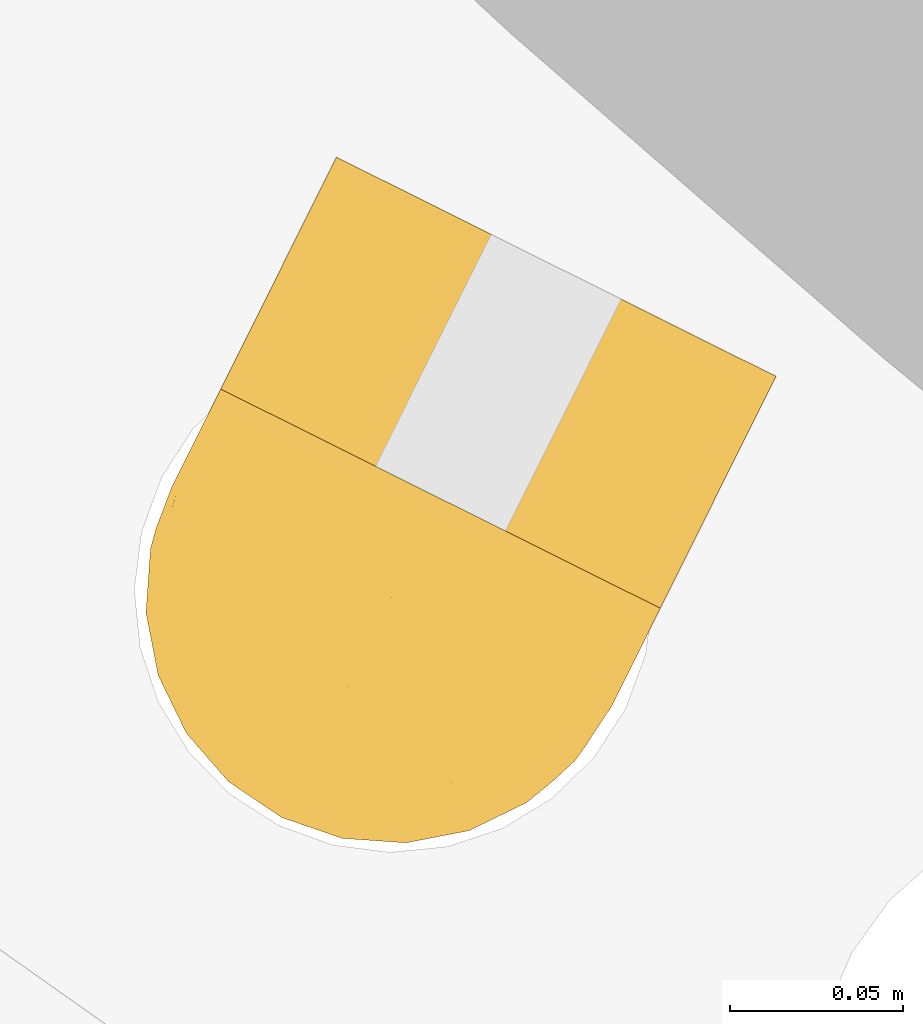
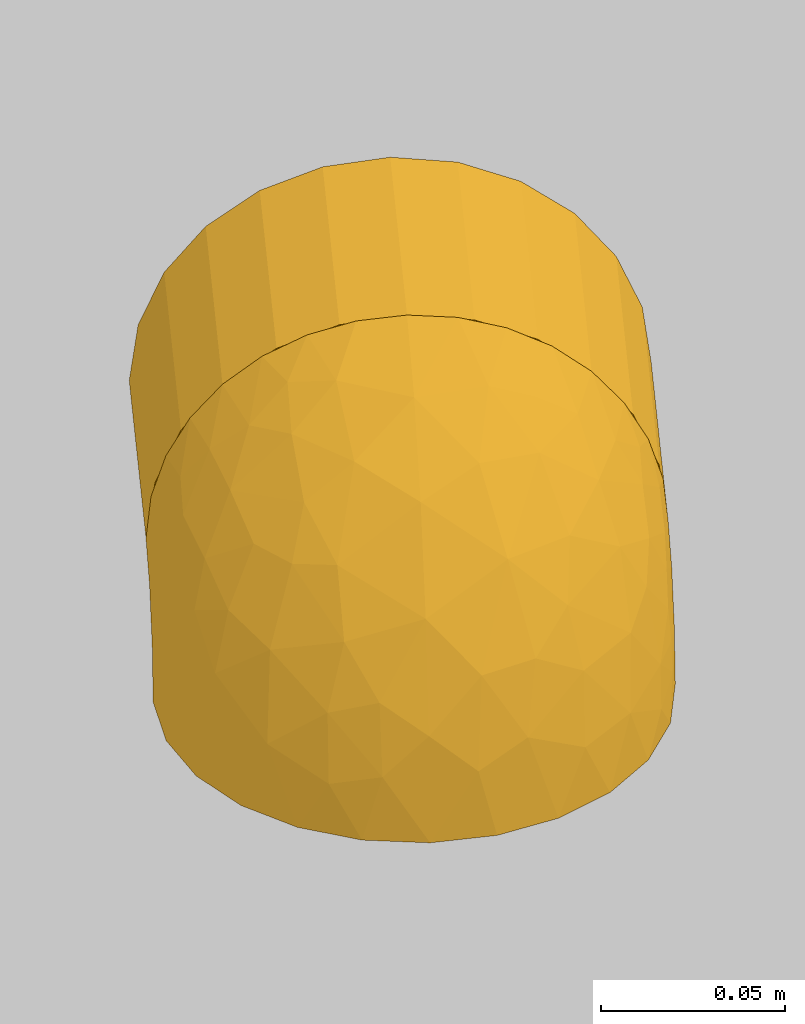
# One storey, part 8 of 34: 2 coverings.
"""IFC2X3 building model written with IfcOpenShell, lengths in metres."""

from ifc_helpers import new_model, entity, si_unit, converted_unit, derived_unit, direction, frame, origin, place, context, subcontext, project, spatial, faceted_brep, element, save


model = new_model("IFC2X3")

# Units and contexts
model_context = context("Model", 3, precision=1e-05, world=origin(), true_north=direction((0.894925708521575, 0.446215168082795)))
context_of_model = context(None, 3, precision=1e-05, world=origin(), true_north=direction((0.894925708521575, 0.446215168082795)))
body_context = subcontext(model_context, "Body", "Model", "MODEL_VIEW")
ifc_project = project(units=[si_unit("LENGTHUNIT", "METRE"), si_unit("AREAUNIT", "SQUARE_METRE"), si_unit("VOLUMEUNIT", "CUBIC_METRE"), converted_unit("PLANEANGLEUNIT", "DEGREE", entity("IfcRatioMeasure", 0.0174532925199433), si_unit("PLANEANGLEUNIT", "RADIAN"), dimensions=[0, 0, 0, 0, 0, 0, 0]), si_unit("MASSUNIT", "GRAM", prefix="KILO"), si_unit("TIMEUNIT", "SECOND"), si_unit("FREQUENCYUNIT", "HERTZ"), si_unit("THERMODYNAMICTEMPERATUREUNIT", "DEGREE_CELSIUS"), derived_unit("THERMALTRANSMITTANCEUNIT", [(si_unit("MASSUNIT", "GRAM", prefix="KILO"), 1), (si_unit("THERMODYNAMICTEMPERATUREUNIT", "KELVIN"), -1), (si_unit("TIMEUNIT", "SECOND"), -3)]), derived_unit("VOLUMETRICFLOWRATEUNIT", [(si_unit("LENGTHUNIT", "METRE"), 3), (si_unit("TIMEUNIT", "SECOND"), -1)]), si_unit("ELECTRICCURRENTUNIT", "AMPERE"), si_unit("ELECTRICVOLTAGEUNIT", "VOLT"), si_unit("POWERUNIT", "WATT"), si_unit("FORCEUNIT", "NEWTON", prefix="KILO"), si_unit("ILLUMINANCEUNIT", "LUX"), si_unit("LUMINOUSFLUXUNIT", "LUMEN"), si_unit("LUMINOUSINTENSITYUNIT", "CANDELA"), si_unit("PRESSUREUNIT", "PASCAL")], contexts=[model_context, context_of_model])

# Site, building, storey
site_placement = place(None, frame((218.228324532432, 584.720189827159, 0.0), z_axis=(0.0, 0.0, 1.0), x_axis=(0.446215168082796, 0.894925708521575, 0.0)))
site = spatial("IfcSite", under=ifc_project, at=site_placement, Name="Default", CompositionType="ELEMENT")
building_placement = place(site_placement, origin())
building = spatial("IfcBuilding", under=site, at=building_placement, CompositionType="ELEMENT")
storey_placement = place(building_placement, frame((0.0, 0.0, 8.61)))
storey = spatial("IfcBuildingStorey", under=building, at=storey_placement, Name="2 - Piano Secondo", CompositionType="ELEMENT", Elevation=8.61)

# Coverings
covering_1_placement = place(storey_placement, frame((66.9993807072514, -1.84621461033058, 1.12732272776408)))
element("IfcCovering", 1, at=covering_1_placement, inside=storey, Name="Isolamento tubazione:Default", ObjectType="Isolamento tubazione:Default", PredefinedType="INSULATION", context=body_context, shape_type="Brep", body=[
    faceted_brep([(0.00159527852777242, 0.0111187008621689, 0.108218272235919), (0.00159531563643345, 0.0224149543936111, 0.122939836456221), (0.0015953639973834, 0.0371365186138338, 0.134236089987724), (0.00159542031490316, 0.0542801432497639, 0.141337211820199), (0.00159548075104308, 0.0726775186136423, 0.143759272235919), (0.00159554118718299, 0.0910748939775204, 0.141337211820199), (0.00159559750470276, 0.108218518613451, 0.134236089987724), (0.0015956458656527, 0.122940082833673, 0.122939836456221), (0.00159568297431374, 0.134236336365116, 0.108218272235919), (0.00159570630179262, 0.141337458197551, 0.091074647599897), (0.00159571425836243, 0.143759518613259, 0.0726772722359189), (0.00159570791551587, 0.141828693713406, 0.0562223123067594), (0.00159568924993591, 0.136146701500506, 0.0406723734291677), (0.0015952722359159, 0.00920339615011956, 0.0406821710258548), (0.00159525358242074, 0.00352508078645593, 0.0562276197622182), (0.00159524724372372, 0.00159551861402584, 0.0726772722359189), (0.00159525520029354, 0.00401757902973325, 0.091074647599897), (0.0765952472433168, 0.0015952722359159, 0.0726772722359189), (0.0765952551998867, 0.00401733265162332, 0.0542798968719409), (0.0765952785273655, 0.0111184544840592, 0.037136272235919), (0.0765953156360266, 0.0224147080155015, 0.022414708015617), (0.0765953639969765, 0.0371362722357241, 0.0111184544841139), (0.0765954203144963, 0.0542798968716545, 0.00401733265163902), (0.0765954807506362, 0.0726772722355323, 0.00159527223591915), (0.0765955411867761, 0.0910746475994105, 0.00401733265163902), (0.0765955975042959, 0.108218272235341, 0.0111184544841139), (0.0765956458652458, 0.122939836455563, 0.022414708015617), (0.0765956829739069, 0.134236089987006, 0.037136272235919), (0.0765957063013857, 0.141337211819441, 0.0542798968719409), (0.0765957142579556, 0.143759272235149, 0.0726772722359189), (0.0765957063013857, 0.141337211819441, 0.091074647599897), (0.0765956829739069, 0.134236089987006, 0.108218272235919), (0.0765956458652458, 0.122939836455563, 0.122939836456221), (0.0765955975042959, 0.108218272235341, 0.134236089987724), (0.0765955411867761, 0.0910746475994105, 0.141337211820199), (0.0765954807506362, 0.0726772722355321, 0.143759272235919), (0.0765954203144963, 0.0542798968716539, 0.141337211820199), (0.0765953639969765, 0.0371362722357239, 0.134236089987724), (0.0765953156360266, 0.0224147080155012, 0.122939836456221), (0.0765952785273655, 0.0111184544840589, 0.108218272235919), (0.0765952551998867, 0.00401733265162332, 0.091074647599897), (0.0126659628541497, 0.129221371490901, 0.029602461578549), (0.0222828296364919, 0.120387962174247, 0.0199861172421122), (0.0359182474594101, 0.0982435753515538, 0.00635215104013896), (0.0394766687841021, 0.0856798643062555, 0.00279460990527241), (0.0406769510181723, 0.0726773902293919, 0.00159527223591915), (0.0301217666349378, 0.109944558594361, 0.0121478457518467), (0.0394782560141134, 0.059673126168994, 0.00279494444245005), (0.0359207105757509, 0.0471078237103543, 0.00635346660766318), (0.022284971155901, 0.0249615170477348, 0.0199910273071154), (0.0301243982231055, 0.0354056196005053, 0.0121507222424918), (0.0126670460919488, 0.0161280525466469, 0.0296097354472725)], [[[0, 1, 2, 3, 4, 5, 6, 7, 8, 9, 10, 11, 12, 13, 14, 15, 16]], [[17, 18, 19, 20, 21, 22, 23, 24, 25, 26, 27, 28, 29, 30, 31, 32, 33, 34, 35, 36, 37, 38, 39, 40]], [[11, 29, 28]], [[27, 26, 41]], [[12, 28, 27]], [[10, 29, 11]], [[12, 11, 28]], [[41, 12, 27]], [[26, 42, 41]], [[43, 25, 24]], [[24, 23, 44]], [[45, 44, 23]], [[42, 26, 46]], [[44, 43, 24]], [[46, 25, 43]], [[46, 26, 25]], [[47, 45, 23]], [[47, 23, 22]], [[48, 22, 21]], [[48, 47, 22]], [[20, 49, 50]], [[48, 21, 50]], [[50, 21, 20]], [[51, 20, 19]], [[13, 19, 18]], [[14, 18, 17]], [[51, 19, 13]], [[13, 18, 14]], [[17, 15, 14]], [[20, 51, 49]], [[16, 15, 17, 40]], [[0, 16, 40, 39]], [[39, 38, 1, 0]], [[3, 2, 37, 36]], [[4, 3, 36, 35]], [[38, 37, 2, 1]], [[5, 4, 35, 34]], [[6, 5, 34, 33]], [[33, 32, 7, 6]], [[9, 8, 31, 30]], [[10, 9, 30, 29]], [[32, 31, 8, 7]], [[13, 12, 41, 42, 46, 43, 44, 45, 47, 48, 50, 49, 51]]]),
])
covering_2_placement = place(storey_placement, frame((66.8962809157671, -1.84623236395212, 1.16640450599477)))
element("IfcCovering", 2, at=covering_2_placement, inside=storey, Name="Isolamento tubazione:Default", ObjectType="Isolamento tubazione:Default", PredefinedType="INSULATION", context=body_context, shape_type="Brep", body=[
    faceted_brep([(0.104695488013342, 0.138380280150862, 0.0608111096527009), (0.10469546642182, 0.131807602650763, 0.0731042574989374), (0.104695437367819, 0.122963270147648, 0.0838780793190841), (0.104695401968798, 0.112187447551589, 0.0927189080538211), (0.104695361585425, 0.0998943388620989, 0.0992873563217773), (0.104695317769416, 0.0865562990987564, 0.103331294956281), (0.104695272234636, 0.0726950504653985, 0.104695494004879), (0.104695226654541, 0.0588200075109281, 0.103328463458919), (0.104695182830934, 0.045479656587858, 0.0992805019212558), (0.104695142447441, 0.0331865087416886, 0.0927078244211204), (0.104695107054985, 0.0224126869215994, 0.0838634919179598), (0.104695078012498, 0.0135718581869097, 0.0730876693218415), (0.104695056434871, 0.00700340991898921, 0.0607945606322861), (0.104695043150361, 0.00295947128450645, 0.0474565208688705), (0.104695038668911, 0.0015952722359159, 0.0335952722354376), (0.104695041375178, 0.00241908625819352, 0.0228034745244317), (0.104695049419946, 0.00486799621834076, 0.0122724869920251), (0.10469506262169, 0.0088867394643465, 0.00223180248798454), (0.104695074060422, 0.0123689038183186, 0.00223181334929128), (0.104695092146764, 0.0178745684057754, 0.00223183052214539), (0.104695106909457, 0.02236848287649, 0.00223184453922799), (0.10469512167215, 0.0268623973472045, 0.00223185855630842), (0.104695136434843, 0.0313563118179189, 0.00223187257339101), (0.104695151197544, 0.035850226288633, 0.00223188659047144), (0.104695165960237, 0.0403441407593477, 0.00223190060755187), (0.10469518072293, 0.0448380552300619, 0.0022319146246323), (0.104695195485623, 0.0493319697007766, 0.00223192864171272), (0.104695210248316, 0.053825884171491, 0.00223194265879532), (0.104695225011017, 0.0583197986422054, 0.00223195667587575), (0.10469523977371, 0.0628137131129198, 0.00223197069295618), (0.104695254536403, 0.0673076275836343, 0.00223198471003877), (0.104695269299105, 0.071801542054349, 0.0022319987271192), (0.104695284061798, 0.0762954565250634, 0.00223201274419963), (0.104695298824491, 0.0807893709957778, 0.00223202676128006), (0.104695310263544, 0.0842715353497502, 0.0022320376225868), (0.104695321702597, 0.0877536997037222, 0.00223204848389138), (0.104695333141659, 0.0912358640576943, 0.00223205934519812), (0.104695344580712, 0.0947180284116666, 0.00223207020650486), (0.104695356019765, 0.098200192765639, 0.00223208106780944), (0.10469536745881, 0.101682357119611, 0.00223209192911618), (0.104695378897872, 0.105164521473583, 0.00223210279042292), (0.104695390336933, 0.108646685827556, 0.0022321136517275), (0.104695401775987, 0.112128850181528, 0.00223212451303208), (0.104695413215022, 0.1156110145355, 0.00223213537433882), (0.104695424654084, 0.119093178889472, 0.00223214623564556), (0.104695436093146, 0.122575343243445, 0.0022321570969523), (0.104695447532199, 0.126057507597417, 0.00223216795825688), (0.104695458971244, 0.129539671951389, 0.00223217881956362), (0.104695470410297, 0.133021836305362, 0.0022321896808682), (0.104695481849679, 0.136504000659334, 0.00223220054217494), (0.104695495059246, 0.140525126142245, 0.0122806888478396), (0.104695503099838, 0.142972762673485, 0.0228119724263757), (0.104695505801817, 0.143795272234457, 0.0335957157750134), (0.104695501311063, 0.142428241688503, 0.0474707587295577), (0.104058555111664, 0.00888674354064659, 0.0015952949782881), (0.0887949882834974, 0.00344225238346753, 0.00159527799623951), (0.0726950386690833, 0.0015954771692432, 0.00159527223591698), (0.0542930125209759, 0.00401821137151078, 0.0015952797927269), (0.0371450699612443, 0.0111211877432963, 0.00159530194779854), (0.0224198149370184, 0.0224203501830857, 0.00159533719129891), (0.0111207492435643, 0.0371456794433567, 0.00159538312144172), (0.004017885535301, 0.0542936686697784, 0.00159543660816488), (0.0015952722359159, 0.0726957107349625, 0.00159549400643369), (0.00401800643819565, 0.0910977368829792, 0.00159555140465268), (0.0111209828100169, 0.108245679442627, 0.00159560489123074), (0.022420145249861, 0.122970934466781, 0.00159565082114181), (0.0371454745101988, 0.13427000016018, 0.00159568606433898), (0.0542934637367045, 0.141372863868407, 0.00159570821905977), (0.0726955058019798, 0.143795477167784, 0.00159571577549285), (0.0887954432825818, 0.141948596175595, 0.00159571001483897), (0.104058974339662, 0.136504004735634, 0.00159569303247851), (0.104058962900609, 0.133021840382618, 0.00159568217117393), (0.104058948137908, 0.128527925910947, 0.00159566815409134), (0.104058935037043, 0.124539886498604, 0.00159565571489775), (0.104058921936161, 0.12055184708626, 0.00159564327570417), (0.104058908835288, 0.116563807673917, 0.00159563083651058), (0.104058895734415, 0.112575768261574, 0.00159561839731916), (0.104058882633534, 0.10858772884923, 0.00159560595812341), (0.104058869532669, 0.104599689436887, 0.00159559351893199), (0.104058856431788, 0.100611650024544, 0.0015955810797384), (0.104058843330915, 0.0966236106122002, 0.00159556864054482), (0.104058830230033, 0.0926355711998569, 0.00159555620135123), (0.104058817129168, 0.0886475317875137, 0.00159554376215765), (0.104058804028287, 0.0846594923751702, 0.00159553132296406), (0.104058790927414, 0.0806714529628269, 0.00159551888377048), (0.104058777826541, 0.0766834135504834, 0.00159550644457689), (0.104058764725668, 0.0726953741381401, 0.0015954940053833), (0.104058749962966, 0.0682014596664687, 0.00159547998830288), (0.104058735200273, 0.0637075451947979, 0.00159546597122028), (0.10405872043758, 0.059213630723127, 0.00159545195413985), (0.104058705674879, 0.0547197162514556, 0.00159543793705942), (0.104058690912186, 0.0502258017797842, 0.001595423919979), (0.104058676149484, 0.0457318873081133, 0.0015954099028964), (0.104058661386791, 0.0412379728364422, 0.00159539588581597), (0.10405864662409, 0.0367440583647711, 0.00159538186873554), (0.104058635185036, 0.0332618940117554, 0.0015953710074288), (0.104058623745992, 0.0297797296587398, 0.00159536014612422), (0.104058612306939, 0.0262975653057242, 0.00159534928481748), (0.104058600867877, 0.0228154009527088, 0.00159533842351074), (0.104058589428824, 0.0193332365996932, 0.00159532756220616), (0.104058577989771, 0.0158510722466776, 0.00159531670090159), (0.104058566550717, 0.0123689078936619, 0.00159530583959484), (0.104255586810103, 0.118228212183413, 0.0020557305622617), (0.104218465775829, 0.122545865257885, 0.00201712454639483), (0.104232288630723, 0.0397510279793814, 0.00203229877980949), (0.104223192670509, 0.0434849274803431, 0.0020224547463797), (0.104244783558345, 0.0586471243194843, 0.00204516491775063), (0.104248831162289, 0.0785424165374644, 0.00204918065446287), (0.104242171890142, 0.0745558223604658, 0.00204253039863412), (0.104245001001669, 0.0141099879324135, 0.00204539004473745), (0.104214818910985, 0.0179704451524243, 0.00201303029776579), (0.104245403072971, 0.136504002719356, 0.00204577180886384), (0.104245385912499, 0.131280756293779, 0.00204575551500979), (0.104244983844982, 0.0088867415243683, 0.00204537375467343), (0.104224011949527, 0.102605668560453, 0.00202332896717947), (0.104194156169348, 0.0213230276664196, 0.00198800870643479), (0.10425784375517, 0.0246154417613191, 0.00205787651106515), (0.104229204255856, 0.0350029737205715, 0.00202900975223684), (0.104266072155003, 0.092976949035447, 0.00206552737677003), (0.104242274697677, 0.0825277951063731, 0.00204263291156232), (0.104232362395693, 0.0622206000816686, 0.00203236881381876), (0.104223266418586, 0.0659544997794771, 0.00202252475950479), (0.104225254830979, 0.0706145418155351, 0.00202470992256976), (0.104248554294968, 0.047463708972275, 0.00204891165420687), (0.104265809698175, 0.0513997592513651, 0.00206528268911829), (0.104187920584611, 0.031713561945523, 0.00197990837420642), (0.104277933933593, 0.0968571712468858, 0.00207609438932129), (0.104214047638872, 0.1144952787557, 0.00201207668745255), (0.104270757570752, 0.127284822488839, 0.00206977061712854), (0.104591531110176, 0.00888673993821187, 0.00218891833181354), (0.104487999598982, 0.00888674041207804, 0.00214603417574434), (0.104366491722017, 0.00888674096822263, 0.00209570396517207), (0.104366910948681, 0.13650400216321, 0.00209610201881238), (0.104488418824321, 0.136504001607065, 0.00214643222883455), (0.10459195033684, 0.136504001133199, 0.00218931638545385), (0.104101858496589, 0.136504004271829, 0.00169922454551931), (0.104101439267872, 0.0088867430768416, 0.00169882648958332), (0.104194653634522, 0.00888674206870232, 0.00192386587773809), (0.104144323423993, 0.0088867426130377, 0.00180235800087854), (0.104144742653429, 0.136504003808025, 0.00180275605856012), (0.104195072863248, 0.13650400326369, 0.00192426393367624), (0.104253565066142, 0.11076013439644, 0.00205378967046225), (0.104241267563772, 0.106694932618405, 0.00204160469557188), (0.104226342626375, 0.0866535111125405, 0.00202589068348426), (0.104250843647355, 0.0284623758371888, 0.00205115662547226), (0.104255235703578, 0.0550729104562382, 0.00205539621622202), (0.0955893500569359, 0.00526591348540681, 0.00412514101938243), (0.0756535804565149, 0.0015954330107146, 0.0126367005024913), (0.0903261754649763, 0.00344222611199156, 0.00840316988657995), (0.0769822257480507, 0.0015954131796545, 0.0175952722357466), (0.0994467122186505, 0.00572211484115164, 0.00780385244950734), (0.0969884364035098, 0.00511526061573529, 0.0078194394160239), (0.0852154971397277, 0.0026211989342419, 0.0059764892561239), (0.0937881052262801, 0.00324075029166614, 0.01436355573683), (0.0995369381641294, 0.00344309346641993, 0.0166312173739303), (0.097170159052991, 0.00203658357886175, 0.0244809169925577), (0.0886950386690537, 0.00159533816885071, 0.0293080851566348), (0.0941881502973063, 0.00227007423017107, 0.0211833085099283), (0.0975933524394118, 0.00159530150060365, 0.0316923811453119), (0.0966950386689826, 0.00159530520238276, 0.0314516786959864), (0.0828386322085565, 0.00159537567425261, 0.0234516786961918), (0.0983825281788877, 0.0042825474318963, 0.0125435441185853), (0.088769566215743, 0.00261603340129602, 0.0136875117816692), (0.0980464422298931, 0.00596930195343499, 0.0049503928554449), (0.074597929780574, 0.00159544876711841, 0.00869695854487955), (0.0741743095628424, 0.0015954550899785, 0.00711598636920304), (0.0549374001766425, 0.0560753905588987, 0.0896379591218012), (0.0728356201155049, 0.072695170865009, 0.0996494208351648), (0.0440946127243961, 0.0726953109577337, 0.0850051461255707), (0.0622316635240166, 0.00333934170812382, 0.0232156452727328), (0.0647084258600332, 0.00401808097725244, 0.0322780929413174), (0.0499932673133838, 0.00700764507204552, 0.0242535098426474), (0.0319773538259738, 0.016288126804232, 0.0210799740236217), (0.0415722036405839, 0.0156139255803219, 0.040957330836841), (0.0252476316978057, 0.0294125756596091, 0.0403763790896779), (0.0463857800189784, 0.00700769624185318, 0.0118767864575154), (0.0598669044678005, 0.00313033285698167, 0.0146614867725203), (0.0631218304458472, 0.0391717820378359, 0.0866829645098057), (0.0345359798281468, 0.0495293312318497, 0.071754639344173), (0.00664134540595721, 0.072695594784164, 0.0334551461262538), (0.00500697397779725, 0.0593306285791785, 0.0223830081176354), (0.0142207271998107, 0.0578923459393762, 0.0476945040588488), (0.07906838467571, 0.0520504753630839, 0.0982940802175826), (0.0934071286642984, 0.0099857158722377, 0.0661225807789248), (0.0929549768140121, 0.00465386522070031, 0.0528987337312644), (0.0815654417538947, 0.00390546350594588, 0.0458977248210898), (0.0109110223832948, 0.0454868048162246, 0.0289348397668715), (0.0181966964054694, 0.0294126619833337, 0.0198681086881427), (0.0548276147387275, 0.017727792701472, 0.0603936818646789), (0.068059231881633, 0.00898712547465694, 0.0535431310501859), (0.0661638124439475, 0.0228237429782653, 0.0747433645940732), (0.0723757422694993, 0.00397611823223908, 0.0400661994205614), (0.0808691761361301, 0.00998576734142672, 0.0626159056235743), (0.0824197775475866, 0.0275824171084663, 0.0856487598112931), (0.0841131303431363, 0.0171739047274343, 0.0751851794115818), (0.0212856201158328, 0.0726954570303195, 0.0621961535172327), (0.0203117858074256, 0.0428095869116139, 0.0484395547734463), (0.0805230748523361, 0.0391721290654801, 0.0931595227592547), (0.0464183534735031, 0.0319864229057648, 0.0705628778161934), (0.032441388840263, 0.0333615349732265, 0.0572918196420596), (0.0555383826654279, 0.0104668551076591, 0.0462219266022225), (0.0975938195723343, 0.143795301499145, 0.0316928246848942), (0.0913712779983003, 0.140732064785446, 0.0525263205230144), (0.00476040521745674, 0.0854832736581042, 0.0217176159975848), (0.0827615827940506, 0.0933247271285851, 0.0992028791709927), (0.0138048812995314, 0.0999043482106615, 0.037398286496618), (0.0111562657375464, 0.0858886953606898, 0.041931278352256), (0.0210995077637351, 0.0949208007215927, 0.0556265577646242), (0.00833094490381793, 0.0999044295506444, 0.0176209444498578), (0.0817735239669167, 0.117134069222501, 0.0860412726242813), (0.0711303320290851, 0.106202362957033, 0.090157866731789), (0.0888744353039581, 0.106202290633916, 0.0949743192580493), (0.034560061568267, 0.0959593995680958, 0.0717308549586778), (0.0628141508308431, 0.142534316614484, 0.0189435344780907), (0.0769826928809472, 0.143795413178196, 0.0175957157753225), (0.0756540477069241, 0.143795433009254, 0.012637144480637), (0.0748390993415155, 0.143795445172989, 0.00959571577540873), (0.0486502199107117, 0.136601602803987, 0.0307274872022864), (0.0479166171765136, 0.138383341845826, 0.0183838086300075), (0.0373803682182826, 0.129102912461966, 0.0353032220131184), (0.0191717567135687, 0.115978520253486, 0.0239915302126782), (0.0311244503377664, 0.129102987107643, 0.0175589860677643), (0.028660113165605, 0.11468574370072, 0.0485715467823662), (0.0692038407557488, 0.139171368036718, 0.0464811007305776), (0.0813679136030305, 0.141097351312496, 0.0473975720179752), (0.0787074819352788, 0.142831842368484, 0.0366854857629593), (0.0498651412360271, 0.117792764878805, 0.0691011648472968), (0.0674669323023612, 0.123128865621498, 0.07478824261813), (0.0586951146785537, 0.130608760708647, 0.058595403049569), (0.0851786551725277, 0.127650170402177, 0.0761977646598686), (0.0884457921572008, 0.135396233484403, 0.0650717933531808), (0.0763684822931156, 0.13539605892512, 0.0606795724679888), (0.056657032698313, 0.0899873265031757, 0.0904003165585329), (0.0513609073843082, 0.104007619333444, 0.0812168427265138), (0.0966955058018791, 0.143795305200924, 0.0314521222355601), (0.0886955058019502, 0.143795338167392, 0.0293085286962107), (0.0397019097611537, 0.108007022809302, 0.0691061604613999), (0.0601007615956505, 0.142519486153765, 0.0101601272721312), (0.0428324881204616, 0.125152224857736, 0.0523118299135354), (0.0525792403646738, 0.13378022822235, 0.0458718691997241), (0.0601610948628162, 0.139700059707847, 0.0351862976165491), (0.0828390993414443, 0.143795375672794, 0.0234521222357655), (0.0741747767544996, 0.143795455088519, 0.00711643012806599), (0.0817504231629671, 0.143270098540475, 0.00604725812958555), (0.102600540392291, 0.139559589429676, 0.00913604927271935), (0.100433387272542, 0.140018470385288, 0.00967545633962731), (0.0995322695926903, 0.141949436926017, 0.0166382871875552), (0.0827055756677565, 0.143380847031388, 0.0120144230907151), (0.0972108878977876, 0.140181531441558, 0.00764055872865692), (0.0994661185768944, 0.139663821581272, 0.00780264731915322), (0.0903266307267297, 0.141948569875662, 0.00840360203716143), (0.0960118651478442, 0.14231203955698, 0.0168498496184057), (0.0937836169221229, 0.142150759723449, 0.0143644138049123), (0.0886884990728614, 0.142791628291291, 0.0137443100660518), (0.0920717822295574, 0.141192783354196, 0.00443495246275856)], [[[0, 1, 2, 3, 4, 5, 6, 7, 8, 9, 10, 11, 12, 13, 14, 15, 16, 17, 18, 19, 20, 21, 22, 23, 24, 25, 26, 27, 28, 29, 30, 31, 32, 33, 34, 35, 36, 37, 38, 39, 40, 41, 42, 43, 44, 45, 46, 47, 48, 49, 50, 51, 52, 53]], [[54, 55, 56, 57, 58, 59, 60, 61, 62, 63, 64, 65, 66, 67, 68, 69, 70, 71, 72, 73, 74, 75, 76, 77, 78, 79, 80, 81, 82, 83, 84, 85, 86, 87, 88, 89, 90, 91, 92, 93, 94, 95, 96, 97, 98, 99, 100, 101]], [[102, 74, 103]], [[24, 104, 105]], [[90, 89, 106]], [[107, 32, 108]], [[109, 100, 110]], [[33, 32, 107]], [[111, 48, 112]], [[18, 113, 109]], [[100, 109, 113, 101]], [[112, 72, 71]], [[39, 38, 114, 40]], [[20, 115, 116]], [[117, 94, 104]], [[80, 118, 82, 81]], [[119, 33, 107]], [[29, 120, 121]], [[108, 122, 86]], [[110, 19, 109]], [[108, 32, 31]], [[107, 108, 85]], [[121, 30, 29]], [[25, 123, 26]], [[112, 48, 47]], [[18, 109, 19]], [[93, 92, 105]], [[124, 91, 90]], [[22, 125, 117]], [[126, 37, 118]], [[102, 43, 127]], [[112, 47, 128]], [[73, 128, 103]], [[18, 17, 129, 130, 131]], [[48, 132, 133, 134, 49]], [[48, 111, 132]], [[18, 131, 113]], [[71, 70, 135]], [[101, 136, 54]], [[101, 113, 137, 138, 136]], [[71, 135, 139, 140, 111, 112]], [[72, 112, 128]], [[103, 74, 73]], [[25, 24, 105]], [[128, 46, 103]], [[73, 72, 128]], [[20, 116, 21]], [[110, 99, 115]], [[115, 20, 19]], [[76, 127, 141]], [[142, 114, 78]], [[95, 125, 96]], [[127, 76, 75]], [[102, 103, 44]], [[103, 46, 45, 44]], [[119, 143, 34]], [[85, 84, 107]], [[143, 118, 36]], [[84, 119, 107]], [[86, 85, 108]], [[87, 121, 88]], [[31, 122, 108]], [[122, 87, 86]], [[31, 30, 122]], [[121, 87, 122]], [[35, 34, 143, 36]], [[83, 143, 119]], [[82, 143, 83]], [[119, 84, 83]], [[143, 82, 118]], [[36, 118, 37]], [[126, 114, 38]], [[42, 41, 141]], [[80, 126, 118]], [[79, 114, 126]], [[78, 114, 79]], [[126, 80, 79]], [[142, 40, 114]], [[41, 142, 141]], [[142, 77, 141]], [[43, 42, 127]], [[75, 74, 102]], [[76, 141, 77]], [[142, 78, 77]], [[127, 42, 141]], [[102, 127, 75]], [[116, 97, 144]], [[144, 21, 116]], [[98, 116, 115]], [[95, 94, 117]], [[23, 22, 117]], [[22, 21, 144]], [[96, 125, 144]], [[125, 95, 117]], [[24, 23, 104]], [[38, 37, 126]], [[110, 100, 99]], [[104, 93, 105]], [[124, 123, 91]], [[92, 123, 105]], [[105, 123, 25]], [[92, 91, 123]], [[124, 26, 123]], [[124, 27, 26]], [[145, 27, 124]], [[93, 104, 94]], [[117, 104, 23]], [[120, 88, 121]], [[30, 121, 122]], [[106, 145, 90]], [[89, 88, 120]], [[145, 124, 90]], [[120, 29, 28]], [[145, 28, 27]], [[106, 28, 145]], [[34, 33, 119]], [[128, 47, 46]], [[144, 125, 22]], [[96, 144, 97]], [[116, 98, 97]], [[142, 41, 40]], [[98, 115, 99]], [[19, 110, 115]], [[44, 43, 102]], [[106, 120, 28]], [[120, 106, 89]], [[54, 136, 138, 146]], [[147, 148, 149]], [[113, 150, 151]], [[55, 152, 56]], [[151, 137, 113]], [[129, 17, 16]], [[151, 150, 153]], [[130, 129, 154]], [[154, 129, 16]], [[155, 156, 157]], [[15, 14, 158, 159]], [[159, 155, 15]], [[160, 153, 157]], [[153, 150, 161]], [[151, 162, 148]], [[16, 15, 154]], [[146, 152, 55]], [[153, 161, 157]], [[163, 146, 138]], [[152, 146, 148]], [[54, 146, 55]], [[148, 147, 152]], [[152, 147, 164, 165, 56]], [[163, 138, 137]], [[162, 151, 153]], [[163, 151, 148]], [[153, 160, 162]], [[149, 148, 162]], [[151, 163, 137]], [[149, 162, 160]], [[146, 163, 148]], [[161, 130, 154]], [[161, 131, 130]], [[150, 113, 131]], [[131, 161, 150]], [[157, 161, 154]], [[155, 157, 154]], [[157, 156, 160]], [[15, 155, 154]], [[156, 155, 159]], [[166, 167, 168]], [[169, 170, 171]], [[172, 173, 174]], [[171, 175, 176]], [[177, 166, 178]], [[179, 180, 181]], [[7, 167, 182]], [[8, 7, 182]], [[183, 184, 12]], [[185, 156, 159, 158]], [[186, 60, 187]], [[61, 180, 62]], [[188, 189, 190]], [[60, 186, 61]], [[58, 175, 172]], [[158, 14, 13]], [[60, 59, 187]], [[185, 191, 156]], [[192, 189, 185]], [[180, 61, 186]], [[193, 10, 9]], [[194, 10, 193]], [[185, 158, 184]], [[184, 13, 12]], [[58, 172, 59]], [[178, 168, 195]], [[196, 181, 186]], [[158, 13, 184]], [[192, 194, 190]], [[197, 182, 177]], [[197, 9, 8]], [[182, 166, 177]], [[58, 57, 175]], [[188, 190, 198]], [[7, 6, 167]], [[193, 197, 177]], [[194, 192, 183]], [[184, 192, 185]], [[188, 199, 173]], [[11, 183, 12]], [[173, 172, 171]], [[181, 195, 179]], [[187, 172, 174]], [[57, 56, 165, 164]], [[189, 192, 190]], [[160, 156, 191]], [[176, 169, 171]], [[160, 170, 149]], [[189, 188, 200]], [[11, 10, 194]], [[184, 183, 192]], [[194, 183, 11]], [[194, 193, 190]], [[193, 177, 190]], [[198, 190, 177]], [[177, 178, 198]], [[178, 196, 199]], [[200, 171, 170]], [[199, 188, 198]], [[167, 166, 182]], [[178, 166, 168]], [[172, 187, 59]], [[186, 187, 174]], [[200, 188, 173]], [[191, 185, 189]], [[171, 200, 173]], [[191, 200, 170]], [[200, 191, 189]], [[160, 191, 170]], [[176, 57, 164]], [[172, 175, 171]], [[57, 176, 175]], [[176, 164, 147, 149]], [[176, 149, 169]], [[149, 170, 169]], [[196, 186, 174]], [[178, 195, 181]], [[199, 196, 174]], [[178, 181, 196]], [[173, 199, 174]], [[178, 199, 198]], [[9, 197, 193]], [[8, 182, 197]], [[181, 180, 186]], [[62, 180, 179]], [[53, 201, 202]], [[62, 179, 203]], [[4, 204, 5]], [[205, 203, 206]], [[206, 207, 205]], [[208, 203, 205]], [[209, 210, 211]], [[212, 195, 168]], [[213, 214, 215, 216]], [[217, 218, 219]], [[64, 220, 65]], [[221, 218, 66]], [[222, 219, 220]], [[221, 66, 65]], [[220, 64, 208]], [[223, 224, 225]], [[226, 227, 228]], [[229, 230, 231]], [[204, 232, 167]], [[233, 232, 210]], [[2, 1, 229]], [[2, 229, 209]], [[233, 212, 232]], [[204, 4, 211]], [[6, 5, 167]], [[63, 208, 64]], [[167, 5, 204]], [[53, 52, 201]], [[230, 202, 231]], [[3, 2, 209]], [[230, 1, 0]], [[227, 210, 209]], [[224, 223, 231]], [[0, 53, 202]], [[66, 218, 67]], [[226, 233, 227]], [[204, 210, 232]], [[224, 201, 234, 235]], [[168, 167, 232]], [[3, 211, 4]], [[233, 236, 212]], [[218, 213, 237]], [[212, 168, 232]], [[219, 222, 238]], [[239, 223, 240]], [[222, 220, 205]], [[221, 220, 219]], [[222, 205, 207]], [[238, 226, 228]], [[213, 240, 214]], [[67, 237, 68]], [[204, 211, 210]], [[209, 211, 3]], [[209, 229, 227]], [[229, 231, 227]], [[228, 227, 231]], [[223, 228, 231]], [[239, 219, 238]], [[224, 231, 202]], [[225, 240, 223]], [[220, 221, 65]], [[214, 240, 241]], [[218, 221, 219]], [[237, 213, 216]], [[213, 218, 217]], [[237, 216, 242, 68]], [[218, 237, 67]], [[201, 224, 202]], [[225, 224, 235]], [[235, 241, 225]], [[240, 225, 241]], [[227, 233, 210]], [[236, 233, 226]], [[238, 236, 226]], [[207, 236, 222]], [[203, 208, 63]], [[220, 208, 205]], [[62, 203, 63]], [[203, 179, 206]], [[179, 195, 206]], [[207, 195, 212]], [[195, 207, 206]], [[207, 212, 236]], [[238, 222, 236]], [[239, 238, 228]], [[223, 239, 228]], [[239, 240, 217]], [[1, 230, 229]], [[0, 202, 230]], [[239, 217, 219]], [[213, 217, 240]], [[243, 68, 242, 216, 215]], [[244, 245, 246]], [[214, 247, 215]], [[111, 248, 249]], [[140, 139, 250]], [[246, 51, 50]], [[246, 245, 251]], [[50, 244, 246]], [[246, 234, 51]], [[241, 252, 253]], [[132, 245, 133]], [[250, 247, 253]], [[235, 234, 251]], [[50, 134, 244]], [[69, 254, 70]], [[249, 132, 111]], [[50, 49, 134]], [[133, 244, 134]], [[245, 244, 133]], [[245, 249, 251]], [[254, 69, 243]], [[247, 243, 215]], [[111, 140, 248]], [[241, 253, 214]], [[250, 254, 243]], [[250, 243, 247]], [[68, 243, 69]], [[252, 241, 235]], [[253, 247, 214]], [[248, 250, 253]], [[252, 249, 248]], [[250, 248, 140]], [[252, 248, 253]], [[250, 139, 254]], [[254, 139, 135, 70]], [[252, 235, 251]], [[51, 234, 201, 52]], [[251, 249, 252]], [[132, 249, 245]], [[251, 234, 246]]]),
])

save(model, "model.ifc")
